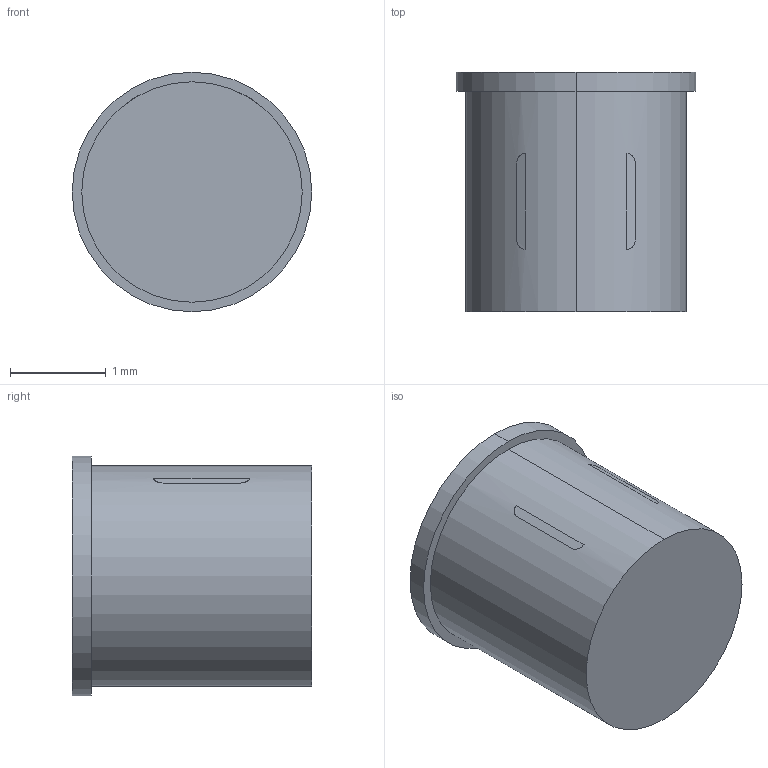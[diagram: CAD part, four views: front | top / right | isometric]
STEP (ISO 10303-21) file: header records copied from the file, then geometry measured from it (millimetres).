
FILE_DESCRIPTION (( 'STEP AP214' ), '1' );
FILE_NAME ('RC3S.STEP', '2021-06-28T13:47:48', ( '' ), ( '' ), 'SwSTEP 2.0', 'SolidWorks 2021', '' );
FILE_SCHEMA (( 'AUTOMOTIVE_DESIGN' ));
Length unit declared in the file: millimetre
Products named in the file (1): RC3S
Bounding box: 2.5 x 2.5 x 2.5 mm (x, y, z)
Surface area: 28.9 mm2 (no closed solid volume)
Topology: 0 solids, 3 shells, 19 faces, 44 edges, 32 vertices
Faces by surface type: cylinder 10, plane 9
Entity records: 682 total; most frequent: CARTESIAN_POINT 216, DIRECTION 88, ORIENTED_EDGE 80, EDGE_CURVE 44, VERTEX_POINT 32, AXIS2_PLACEMENT_3D 32, VECTOR 24, LINE 24
